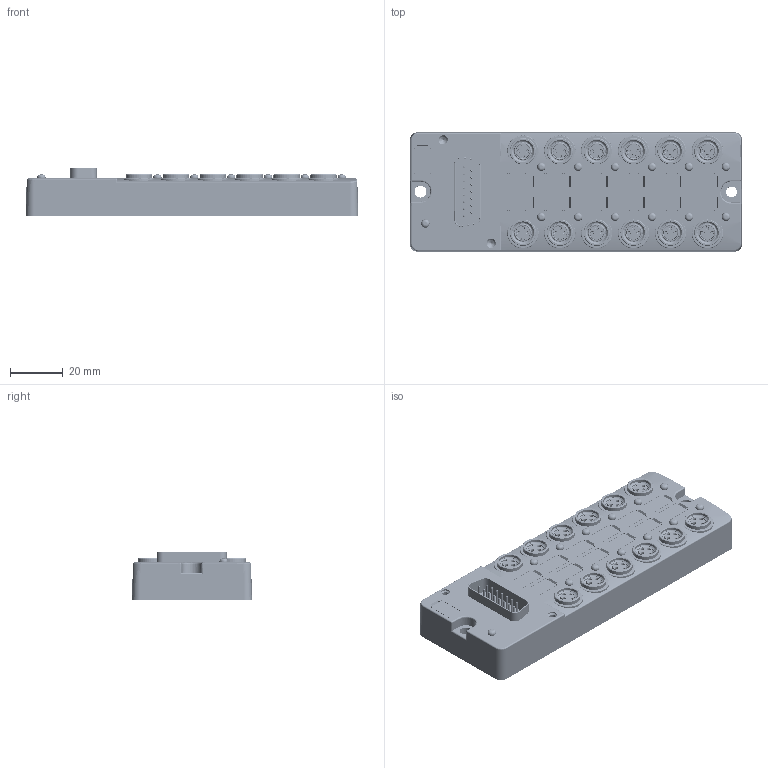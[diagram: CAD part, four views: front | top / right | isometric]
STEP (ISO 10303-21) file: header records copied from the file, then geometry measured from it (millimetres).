
FILE_DESCRIPTION (( 'STEP AP203' ), '1' );
FILE_NAME ('23PCT1(23NCT1).STEP', '2020-05-16T02:18:15', ( '' ), ( '' ), 'SwSTEP 2.0', 'SolidWorks 2016', '' );
FILE_SCHEMA (( 'CONFIG_CONTROL_DESIGN' ));
Products named in the file (1): 23PCT1(23NCT1)
Bounding box: 125.93 x 45.42 x 18.3 mm (x, y, z)
Volume: 76718.5 mm3; surface area: 32323.2 mm2
Topology: 2 solids, 2 shells, 3772 faces, 11243 edges, 7292 vertices
Faces by surface type: plane 1538, cylinder 1274, bspline 473, cone 461, torus 26
Entity records: 201700 total; most frequent: CARTESIAN_POINT 111844, ORIENTED_EDGE 22268, DIRECTION 13694, EDGE_CURVE 11134, VERTEX_POINT 7292, B_SPLINE_CURVE_WITH_KNOTS 4971, VECTOR 4848, LINE 4848
